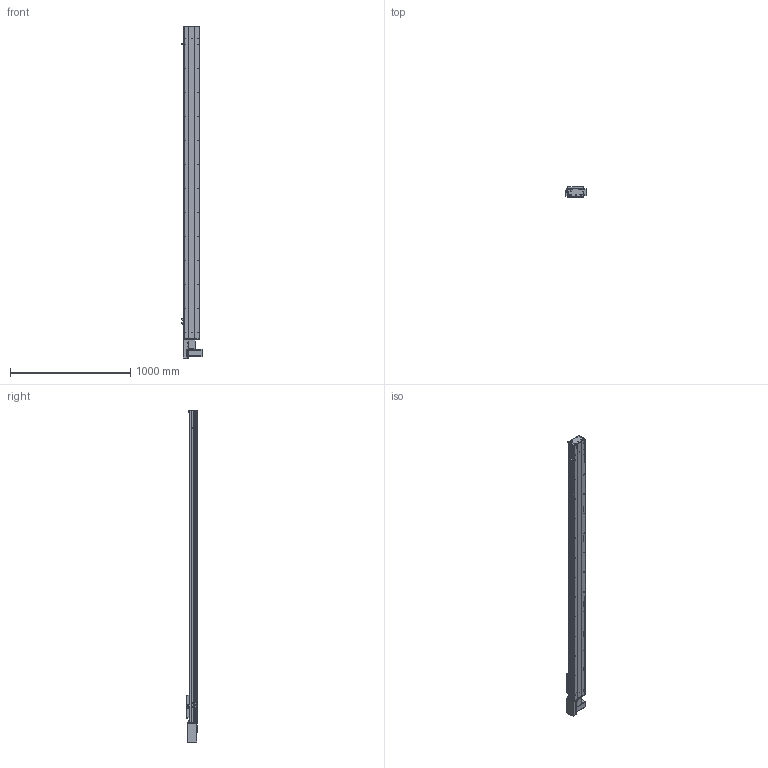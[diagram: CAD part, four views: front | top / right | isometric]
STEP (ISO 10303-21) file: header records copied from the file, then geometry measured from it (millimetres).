
FILE_DESCRIPTION (( 'STEP AP203' ), '1' );
FILE_NAME ('Y135CB-D90-S2300-BR-P400W.STEP', '2020-02-18T03:02:00', ( '微软用户' ), ( '微软中国' ), 'SwSTEP 2.0', 'SolidWorks 2017', '' );
FILE_SCHEMA (( 'CONFIG_CONTROL_DESIGN' ));
Length unit declared in the file: millimetre
Products named in the file (18): Y100-135俋离換覜ん--; 0B-源倛裔啣; Y135C-陔俋离換覜結え-; 0B-萇儂楊擘啣; 5C--俋欶; san松下电机400不带刹车----; Y135CB-耜裔; C-雄赽釱--; 5CB --掛极耜裔啣-; 135CB---遴掛极.-; Y10B--々湍喘謫眊--666; C-詩湍揤踡え-陔; 35CB---喘謫眊楊擘啣; Y135CB-D90-S2300-BR-P400W; 135CB--詩湍-CE; Y10B-耜蚾蟀諉啣----; Y俋欶BR----; 0B-埴倛裔啣
Assembly tree (21 placements, depth 2):
  Y135CB-D90-S2300-BR-P400W
    Y135CB-耜裔
    135CB---遴掛极.-
    35CB---喘謫眊楊擘啣
    Y10B-耜蚾蟀諉啣----
    Y俋欶BR----
    0B-埴倛裔啣
    0B-源倛裔啣
    0B-萇儂楊擘啣
    san松下电机400不带刹车----
    5CB --掛极耜裔啣-  x2
    C-詩湍揤踡え-陔  x2
    135CB--詩湍-CE
    Y100-135俋离換覜ん--  x3
    Y135C-陔俋离換覜結え-
    5C--俋欶
    C-雄赽釱--
    Y10B--々湍喘謫眊--666
Bounding box: 167.5 x 91 x 2764.5 mm (x, y, z)
Volume: 7762403.1 mm3; surface area: 3064936.2 mm2
Topology: 21 solids, 21 shells, 973 faces, 2653 edges, 1758 vertices
Faces by surface type: cylinder 499, plane 458, cone 16
Entity records: 30755 total; most frequent: CARTESIAN_POINT 5120, DIRECTION 5109, ORIENTED_EDGE 4782, EDGE_CURVE 2391, AXIS2_PLACEMENT_3D 1871, VERTEX_POINT 1586, LINE 1367, VECTOR 1367
